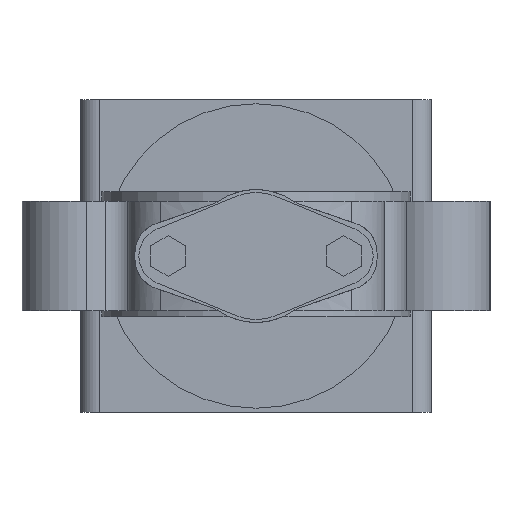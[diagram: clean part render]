
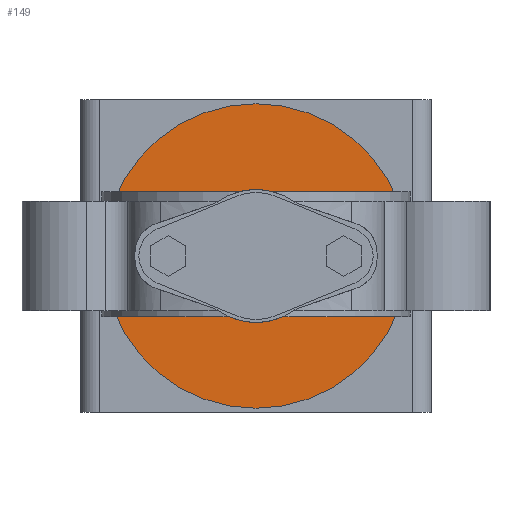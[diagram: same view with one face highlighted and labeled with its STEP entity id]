
A CAD part, front view. The second image highlights one B-rep face of the part: STEP entity #149.
In plain terms, the highlighted planar face has unit normal (0, -1, 0).
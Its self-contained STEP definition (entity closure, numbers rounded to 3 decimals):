
#149 = ADVANCED_FACE( '', ( #487, #488 ), #489, .T. );
#487 = FACE_OUTER_BOUND( '', #1036, .T. );
#488 = FACE_BOUND( '', #1037, .T. );
#489 = PLANE( '', #1038 );
#1036 = EDGE_LOOP( '', ( #2001, #2002 ) );
#1037 = EDGE_LOOP( '', ( #2003, #2004, #2005, #2006 ) );
#1038 = AXIS2_PLACEMENT_3D( '', #2007, #2008, #2009 );
#2001 = ORIENTED_EDGE( '', *, *, #3622, .F. );
#2002 = ORIENTED_EDGE( '', *, *, #3744, .F. );
#2003 = ORIENTED_EDGE( '', *, *, #3745, .T. );
#2004 = ORIENTED_EDGE( '', *, *, #3746, .T. );
#2005 = ORIENTED_EDGE( '', *, *, #3747, .T. );
#2006 = ORIENTED_EDGE( '', *, *, #3748, .T. );
#2007 = CARTESIAN_POINT( '', ( 46., 171., 0. ) );
#2008 = DIRECTION( '', ( 0., -1., 0. ) );
#2009 = DIRECTION( '', ( -1., 0., 0. ) );
#3622 = EDGE_CURVE( '', #4411, #4414, #4415, .T. );
#3744 = EDGE_CURVE( '', #4414, #4411, #4614, .T. );
#3745 = EDGE_CURVE( '', #4615, #4616, #4617, .T. );
#3746 = EDGE_CURVE( '', #4616, #4618, #4619, .T. );
#3747 = EDGE_CURVE( '', #4618, #4620, #4621, .T. );
#3748 = EDGE_CURVE( '', #4620, #4615, #4622, .T. );
#4411 = VERTEX_POINT( '', #5799 );
#4414 = VERTEX_POINT( '', #5803 );
#4415 = CIRCLE( '', #5804, 78. );
#4614 = CIRCLE( '', #6215, 78. );
#4615 = VERTEX_POINT( '', #6216 );
#4616 = VERTEX_POINT( '', #6217 );
#4617 = LINE( '', #6218, #6219 );
#4618 = VERTEX_POINT( '', #6220 );
#4619 = LINE( '', #6221, #6222 );
#4620 = VERTEX_POINT( '', #6223 );
#4621 = LINE( '', #6224, #6225 );
#4622 = LINE( '', #6226, #6227 );
#5799 = CARTESIAN_POINT( '', ( 78., 171., 0. ) );
#5803 = CARTESIAN_POINT( '', ( -78., 171., 0. ) );
#5804 = AXIS2_PLACEMENT_3D( '', #7418, #7419, #7420 );
#6215 = AXIS2_PLACEMENT_3D( '', #7644, #7645, #7646 );
#6216 = CARTESIAN_POINT( '', ( -40.5, 171., -28. ) );
#6217 = CARTESIAN_POINT( '', ( -40.5, 171., 28. ) );
#6218 = CARTESIAN_POINT( '', ( -40.5, 171., -28. ) );
#6219 = VECTOR( '', #7647, 1. );
#6220 = CARTESIAN_POINT( '', ( 40.5, 171., 28. ) );
#6221 = CARTESIAN_POINT( '', ( -40.5, 171., 28. ) );
#6222 = VECTOR( '', #7648, 1. );
#6223 = CARTESIAN_POINT( '', ( 40.5, 171., -28. ) );
#6224 = CARTESIAN_POINT( '', ( 40.5, 171., 28. ) );
#6225 = VECTOR( '', #7649, 1. );
#6226 = CARTESIAN_POINT( '', ( 40.5, 171., -28. ) );
#6227 = VECTOR( '', #7650, 1. );
#7418 = CARTESIAN_POINT( '', ( 0., 171., 0. ) );
#7419 = DIRECTION( '', ( 0., 1., 0. ) );
#7420 = DIRECTION( '', ( 1., 0., 0. ) );
#7644 = CARTESIAN_POINT( '', ( 0., 171., 0. ) );
#7645 = DIRECTION( '', ( 0., 1., 0. ) );
#7646 = DIRECTION( '', ( 1., 0., 0. ) );
#7647 = DIRECTION( '', ( 0., 0., 1. ) );
#7648 = DIRECTION( '', ( 1., 0., 0. ) );
#7649 = DIRECTION( '', ( 0., 0., -1. ) );
#7650 = DIRECTION( '', ( -1., 0., 0. ) );
